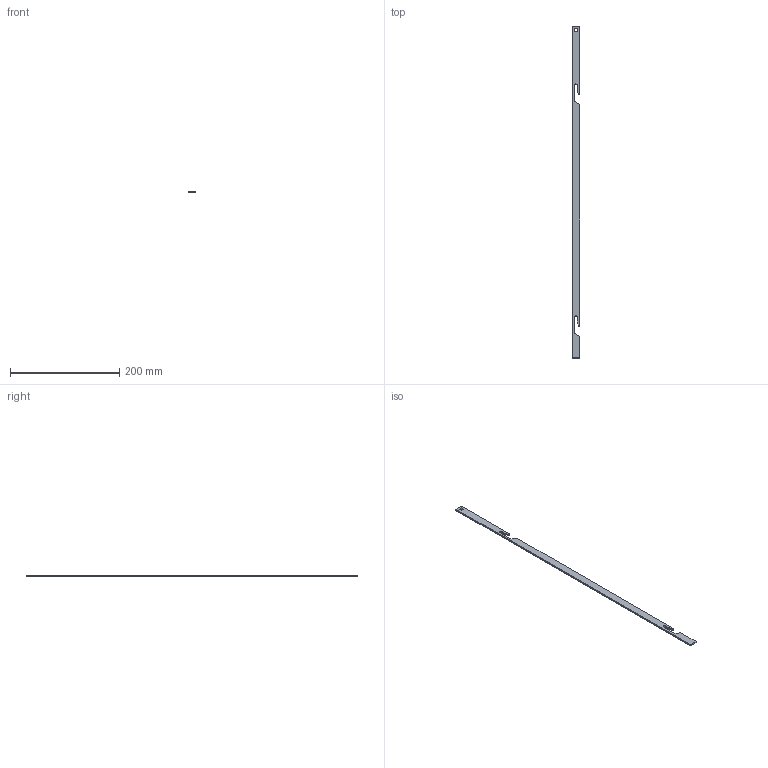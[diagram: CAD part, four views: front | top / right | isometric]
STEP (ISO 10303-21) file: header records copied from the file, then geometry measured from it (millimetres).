
FILE_DESCRIPTION (( 'STEP AP214' ), '1' );
FILE_NAME ('PK490-601.STEP', '2016-09-08T08:21:48', ( '' ), ( '' ), 'SwSTEP 2.0', 'SolidWorks 2015', '' );
FILE_SCHEMA (( 'AUTOMOTIVE_DESIGN' ));
Length unit declared in the file: millimetre
Products named in the file (1): PK490-601
Bounding box: 14 x 608.5 x 3 mm (x, y, z)
Volume: 23986.1 mm3; surface area: 20098.9 mm2
Topology: 1 solids, 1 shells, 24 faces, 66 edges, 44 vertices
Faces by surface type: plane 16, cylinder 8
Entity records: 804 total; most frequent: CARTESIAN_POINT 135, DIRECTION 132, ORIENTED_EDGE 132, EDGE_CURVE 66, LINE 50, VECTOR 50, VERTEX_POINT 44, AXIS2_PLACEMENT_3D 41
